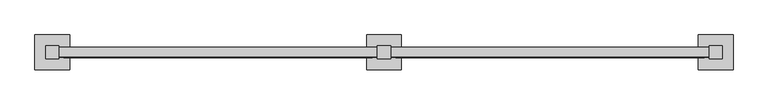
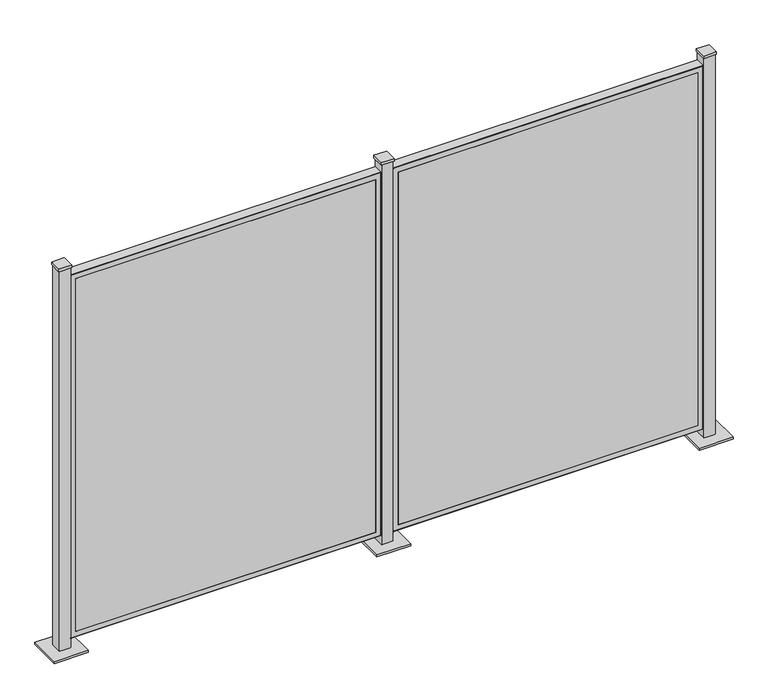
"""IFC4 building model written with IfcOpenShell, lengths in millimetres: proxy geometry, VIVA-Railings_Special-Equipment_Architectural-Fence-&-Landscape-Screens : 55” x 68” - Stainless Steel 0.078''."""

from ifc_helpers import new_model, si_unit, frame, origin, origin_with_axes, place, context, project, spatial, polyline, ellipse_curve, outline, extrude, source, transform, mapped, element, save
from ifc_brep_helpers import plane_surface, cylinder_surface, revolved_surface, advanced_brep


def specialty_equipment_cd4caa7f(model_context):
    return source(origin(), model_context, "Body", "SolidModel", [
        extrude(outline(polyline([(3048.0, 76.2), (3048.0, -76.2), (2895.6, -76.2), (2895.6, 76.2), (3048.0, 76.2)])), origin_with_axes(), (0.0, 0.0, 1.0), 9.525),
        extrude(outline(polyline([(3000.375, -28.575), (2943.225, -28.575), (2943.225, 28.575), (3000.375, 28.575), (3000.375, -28.575)])), frame((0.0, 0.0, 1816.1), z_axis=(0.0, 0.0, 1.0), x_axis=(1.0, 0.0, 0.0)), (0.0, 0.0, 1.0), 12.7),
        extrude(outline(polyline([(2946.4, 25.4), (2997.2, 25.4), (2997.2, -25.4), (2946.4, -25.4), (2946.4, 25.4)]), holes=[polyline([(2948.3812, -23.4188), (2995.2188, -23.4188), (2995.2188, 23.4188), (2948.3812, 23.4188), (2948.3812, -23.4188)])]), frame((0.0, 0.0, 9.525), z_axis=(0.0, 0.0, 1.0), x_axis=(1.0, 0.0, 0.0)), (0.0, 0.0, 1.0), 1806.575),
        advanced_brep(
        [(2946.4, 22.225, 1778.025), (2946.4, -20.2438, 1778.025), (2946.4, -20.2438, 50.825), (2946.4, 22.225, 50.825), (2944.4188, -18.6563, 1776.0438), (2944.4188, 22.225, 1776.0438), (2944.4188, 22.225, 52.8062), (2944.4188, -18.6563, 52.8062), (2942.8313, -20.2438, 1774.4563), (2942.8313, -20.2438, 54.3937), (2921.0, -22.225, 1752.625), (2921.0, -20.2438, 1752.625), (2921.0, -20.2438, 76.225), (2921.0, -22.225, 76.225), (2944.4188, -22.225, 1776.0438), (2944.4188, -22.225, 52.8062), (1549.4, -20.2438, 50.825), (1549.4, 22.225, 50.825), (1551.3812, 22.225, 52.8062), (1551.3812, -18.6563, 52.8062), (1552.9687, -20.2438, 54.3937), (1574.8, -20.2438, 76.225), (1574.8, -22.225, 76.225), (1551.3812, -22.225, 52.8062), (1549.4, -20.2438, 1778.025), (1549.4, 22.225, 1778.025), (1551.3812, 22.225, 1776.0438), (1551.3812, -18.6563, 1776.0438), (1552.9687, -20.2438, 1774.4563), (1574.8, -20.2438, 1752.625), (1574.8, -22.225, 1752.625), (1551.3812, -22.225, 1776.0438)],
        [
            (0, 1),
            (1, 2),
            (2, 3),
            (3, 0),
            (4, 5),
            (5, 6),
            (6, 7),
            (7, 4),
            (8, 4, ellipse_curve(frame((2942.8313, -18.6563, 1774.4563), z_axis=(-0.7071067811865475, 0.0, 0.7071067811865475), x_axis=(-0.7071067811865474, 0.0, -0.7071067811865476)), 2.245064, 1.5875)),
            (7, 9, ellipse_curve(frame((2942.8313, -18.6563, 54.3937), z_axis=(-0.7071067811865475, 0.0, -0.7071067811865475), x_axis=(0.7071067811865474, 0.0, -0.7071067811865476)), 2.245064, 1.5875)),
            (9, 8),
            (10, 11),
            (11, 12),
            (12, 13),
            (13, 10),
            (1, 14, ellipse_curve(frame((2944.4188, -20.2438, 1776.0438), z_axis=(0.7071067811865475, 0.0, -0.7071067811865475), x_axis=(0.7071067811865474, 0.0, 0.7071067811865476)), 2.8018399, 1.9812)),
            (14, 15),
            (15, 2, ellipse_curve(frame((2944.4188, -20.2438, 52.8062), z_axis=(0.7071067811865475, 0.0, 0.7071067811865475), x_axis=(-0.7071067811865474, 0.0, 0.7071067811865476)), 2.8018399, 1.9812)),
            (2, 16),
            (16, 17),
            (17, 3),
            (6, 18),
            (18, 19),
            (19, 7),
            (19, 20, ellipse_curve(frame((1552.9687, -18.6563, 54.3937), z_axis=(-0.7071067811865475, 0.0, 0.7071067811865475), x_axis=(-0.7071067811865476, 0.0, -0.7071067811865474)), 2.245064, 1.5875)),
            (20, 9),
            (12, 21),
            (21, 22),
            (22, 13),
            (15, 23),
            (23, 16, ellipse_curve(frame((1551.3812, -20.2438, 52.8062), z_axis=(0.7071067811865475, 0.0, -0.7071067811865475), x_axis=(0.7071067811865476, 0.0, 0.7071067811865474)), 2.8018399, 1.9812)),
            (16, 24),
            (24, 25),
            (25, 17),
            (18, 26),
            (26, 27),
            (27, 19),
            (27, 28, ellipse_curve(frame((1552.9687, -18.6563, 1774.4563), z_axis=(0.7071067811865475, 0.0, 0.7071067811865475), x_axis=(-0.7071067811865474, 0.0, 0.7071067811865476)), 2.245064, 1.5875)),
            (28, 20),
            (21, 29),
            (29, 30),
            (30, 22),
            (23, 31),
            (31, 24, ellipse_curve(frame((1551.3812, -20.2438, 1776.0438), z_axis=(-0.7071067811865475, 0.0, -0.7071067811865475), x_axis=(0.7071067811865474, 0.0, -0.7071067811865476)), 2.8018399, 1.9812)),
            (24, 1),
            (0, 25),
            (5, 26),
            (4, 27),
            (8, 28),
            (11, 29),
            (10, 30),
            (14, 31),
        ],
        [
            plane_surface(frame((2946.4, -20.2438, 1778.025), z_axis=(1.0, 0.0, 0.0), x_axis=(0.0, 0.0, -1.0))),
            plane_surface(frame((2944.4188, 22.225, 1776.0438), z_axis=(-1.0, 0.0, 0.0), x_axis=(0.0, 0.0, -1.0))),
            revolved_surface(polyline([(2944.4188, -18.6563, 52.80619999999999), (2944.4188, -18.6563, 1776.0438)]), (2942.8313, -18.6563, 1778.025), (0.0, 0.0, -1.0)),
            plane_surface(frame((2921.0, -20.2438, 1752.625), z_axis=(-1.0, 0.0, 0.0), x_axis=(0.0, 0.0, -1.0))),
            cylinder_surface(frame((2944.4188, -20.2438, 1778.025), z_axis=(0.0, 0.0, 1.0), x_axis=(1.0, 0.0, 0.0)), 1.9812),
            plane_surface(frame((2946.4, -20.2438, 50.825), z_axis=(0.0, 0.0, -1.0), x_axis=(-1.0, 0.0, 0.0))),
            plane_surface(frame((2944.4188, 22.225, 52.8062), z_axis=(0.0, 0.0, 1.0), x_axis=(-1.0, 0.0, 0.0))),
            revolved_surface(polyline([(1551.3812, -18.6563, 52.806200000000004), (2944.4188, -18.6563, 52.806200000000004)]), (2946.4, -18.6563, 54.3937), (-1.0, 0.0, 0.0)),
            plane_surface(frame((2921.0, -20.2438, 76.225), z_axis=(0.0, 0.0, 1.0), x_axis=(-1.0, 0.0, 0.0))),
            cylinder_surface(frame((2946.4, -20.2438, 52.8062), z_axis=(1.0, 0.0, 0.0), x_axis=(0.0, 0.0, -1.0)), 1.9812),
            plane_surface(frame((1549.4, -20.2438, 50.825), z_axis=(-1.0, 0.0, 0.0), x_axis=(0.0, 0.0, 1.0))),
            plane_surface(frame((1551.3812, 22.225, 52.8062), z_axis=(1.0, 0.0, 0.0), x_axis=(0.0, 0.0, 1.0))),
            revolved_surface(polyline([(1551.3811999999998, -18.6563, 1776.0438), (1551.3811999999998, -18.6563, 52.8062)]), (1552.9687, -18.6563, 50.825), (0.0, 0.0, 1.0)),
            plane_surface(frame((1574.8, -20.2438, 76.225), z_axis=(1.0, 0.0, 0.0), x_axis=(0.0, 0.0, 1.0))),
            cylinder_surface(frame((1551.3812, -20.2438, 50.825), z_axis=(0.0, 0.0, -1.0), x_axis=(-1.0, 0.0, 0.0)), 1.9812),
            plane_surface(frame((1549.4, -20.2438, 1778.025), z_axis=(0.0, 0.0, 1.0), x_axis=(1.0, 0.0, 0.0))),
            plane_surface(frame((1549.4, 22.225, 1778.025), z_axis=(0.0, 1.0, 0.0), x_axis=(1.0, 0.0, 0.0))),
            plane_surface(frame((1551.3812, 22.225, 1776.0438), z_axis=(0.0, 0.0, -1.0), x_axis=(1.0, 0.0, 0.0))),
            revolved_surface(polyline([(2944.4188, -18.6563, 1776.0438000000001), (1551.3812, -18.6563, 1776.0438000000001)]), (1549.4, -18.6563, 1774.4563), (1.0, 0.0, 0.0)),
            plane_surface(frame((1552.9687, -20.2438, 1774.4563), z_axis=(0.0, 1.0, 0.0), x_axis=(1.0, 0.0, 0.0))),
            plane_surface(frame((1574.8, -20.2438, 1752.625), z_axis=(0.0, 0.0, -1.0), x_axis=(1.0, 0.0, 0.0))),
            plane_surface(frame((1574.8, -22.225, 1752.625), z_axis=(0.0, -1.0, 0.0), x_axis=(1.0, 0.0, 0.0))),
            cylinder_surface(frame((1549.4, -20.2438, 1776.0438), z_axis=(-1.0, 0.0, 0.0), x_axis=(0.0, 0.0, 1.0)), 1.9812),
        ],
        [
            (0, [[1, 2, 3, 4]]),
            (1, [[5, 6, 7, 8]]),
            (2, [[9, -8, 10, 11]]),
            (3, [[12, 13, 14, 15]]),
            (4, [[16, 17, 18, -2]]),
            (5, [[-3, 19, 20, 21]]),
            (6, [[-7, 22, 23, 24]]),
            (7, [[-10, -24, 25, 26]]),
            (8, [[-14, 27, 28, 29]]),
            (9, [[-18, 30, 31, -19]]),
            (10, [[-20, 32, 33, 34]]),
            (11, [[-23, 35, 36, 37]]),
            (12, [[-25, -37, 38, 39]]),
            (13, [[-28, 40, 41, 42]]),
            (14, [[-31, 43, 44, -32]]),
            (15, [[-33, 45, -1, 46]]),
            (16, [[-21, -34, -46, -4], [47, -35, -22, -6]]),
            (17, [[-36, -47, -5, 48]]),
            (18, [[-38, -48, -9, 49]]),
            (19, [[-26, -39, -49, -11], [50, -40, -27, -13]]),
            (20, [[-41, -50, -12, 51]]),
            (21, [[52, -43, -30, -17], [-29, -42, -51, -15]]),
            (22, [[-44, -52, -16, -45]]),
        ],
    ),
        advanced_brep(
        [(1498.6, 22.225, 1778.025), (1498.6, -20.2438, 1778.025), (1498.6, -20.2438, 50.825), (1498.6, 22.225, 50.825), (1496.6188, -18.6563, 1776.0438), (1496.6188, 22.225, 1776.0438), (1496.6188, 22.225, 52.8062), (1496.6188, -18.6563, 52.8062), (1495.0313, -20.2438, 1774.4563), (1495.0313, -20.2438, 54.3937), (1473.2, -22.225, 1752.625), (1473.2, -20.2438, 1752.625), (1473.2, -20.2438, 76.225), (1473.2, -22.225, 76.225), (1496.6188, -22.225, 1776.0438), (1496.6188, -22.225, 52.8062), (101.6, -20.2438, 50.825), (101.6, 22.225, 50.825), (103.5812, 22.225, 52.8062), (103.5812, -18.6563, 52.8062), (105.1687, -20.2438, 54.3937), (127.0, -20.2438, 76.225), (127.0, -22.225, 76.225), (103.5812, -22.225, 52.8062), (101.6, -20.2438, 1778.025), (101.6, 22.225, 1778.025), (103.5812, 22.225, 1776.0438), (103.5812, -18.6563, 1776.0438), (105.1687, -20.2438, 1774.4563), (127.0, -20.2438, 1752.625), (127.0, -22.225, 1752.625), (103.5812, -22.225, 1776.0438)],
        [
            (0, 1),
            (1, 2),
            (2, 3),
            (3, 0),
            (4, 5),
            (5, 6),
            (6, 7),
            (7, 4),
            (8, 4, ellipse_curve(frame((1495.0313, -18.6563, 1774.4563), z_axis=(-0.7071067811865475, 0.0, 0.7071067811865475), x_axis=(-0.7071067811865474, 0.0, -0.7071067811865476)), 2.245064, 1.5875)),
            (7, 9, ellipse_curve(frame((1495.0313, -18.6563, 54.3937), z_axis=(-0.7071067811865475, 0.0, -0.7071067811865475), x_axis=(0.7071067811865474, 0.0, -0.7071067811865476)), 2.245064, 1.5875)),
            (9, 8),
            (10, 11),
            (11, 12),
            (12, 13),
            (13, 10),
            (1, 14, ellipse_curve(frame((1496.6188, -20.2438, 1776.0438), z_axis=(0.7071067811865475, 0.0, -0.7071067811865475), x_axis=(0.7071067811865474, 0.0, 0.7071067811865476)), 2.8018399, 1.9812)),
            (14, 15),
            (15, 2, ellipse_curve(frame((1496.6188, -20.2438, 52.8062), z_axis=(0.7071067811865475, 0.0, 0.7071067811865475), x_axis=(-0.7071067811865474, 0.0, 0.7071067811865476)), 2.8018399, 1.9812)),
            (2, 16),
            (16, 17),
            (17, 3),
            (6, 18),
            (18, 19),
            (19, 7),
            (19, 20, ellipse_curve(frame((105.1687, -18.6563, 54.3937), z_axis=(-0.7071067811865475, 0.0, 0.7071067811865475), x_axis=(-0.7071067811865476, 0.0, -0.7071067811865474)), 2.245064, 1.5875)),
            (20, 9),
            (12, 21),
            (21, 22),
            (22, 13),
            (15, 23),
            (23, 16, ellipse_curve(frame((103.5812, -20.2438, 52.8062), z_axis=(0.7071067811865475, 0.0, -0.7071067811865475), x_axis=(0.7071067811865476, 0.0, 0.7071067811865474)), 2.8018399, 1.9812)),
            (16, 24),
            (24, 25),
            (25, 17),
            (18, 26),
            (26, 27),
            (27, 19),
            (27, 28, ellipse_curve(frame((105.1687, -18.6563, 1774.4563), z_axis=(0.7071067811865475, 0.0, 0.7071067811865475), x_axis=(-0.7071067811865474, 0.0, 0.7071067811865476)), 2.245064, 1.5875)),
            (28, 20),
            (21, 29),
            (29, 30),
            (30, 22),
            (23, 31),
            (31, 24, ellipse_curve(frame((103.5812, -20.2438, 1776.0438), z_axis=(-0.7071067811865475, 0.0, -0.7071067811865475), x_axis=(0.7071067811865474, 0.0, -0.7071067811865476)), 2.8018399, 1.9812)),
            (24, 1),
            (0, 25),
            (5, 26),
            (4, 27),
            (8, 28),
            (11, 29),
            (10, 30),
            (14, 31),
        ],
        [
            plane_surface(frame((1498.6, -20.2438, 1778.025), z_axis=(1.0, 0.0, 0.0), x_axis=(0.0, 0.0, -1.0))),
            plane_surface(frame((1496.6188, 22.225, 1776.0438), z_axis=(-1.0, 0.0, 0.0), x_axis=(0.0, 0.0, -1.0))),
            revolved_surface(polyline([(1496.6188000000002, -18.6563, 52.80619999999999), (1496.6188000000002, -18.6563, 1776.0438)]), (1495.0313, -18.6563, 1778.025), (0.0, 0.0, -1.0)),
            plane_surface(frame((1473.2, -20.2438, 1752.625), z_axis=(-1.0, 0.0, 0.0), x_axis=(0.0, 0.0, -1.0))),
            cylinder_surface(frame((1496.6188, -20.2438, 1778.025), z_axis=(0.0, 0.0, 1.0), x_axis=(1.0, 0.0, 0.0)), 1.9812),
            plane_surface(frame((1498.6, -20.2438, 50.825), z_axis=(0.0, 0.0, -1.0), x_axis=(-1.0, 0.0, 0.0))),
            plane_surface(frame((1496.6188, 22.225, 52.8062), z_axis=(0.0, 0.0, 1.0), x_axis=(-1.0, 0.0, 0.0))),
            revolved_surface(polyline([(103.58120000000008, -18.6563, 52.806200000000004), (1496.6188, -18.6563, 52.806200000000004)]), (1498.6, -18.6563, 54.3937), (-1.0, 0.0, 0.0)),
            plane_surface(frame((1473.2, -20.2438, 76.225), z_axis=(0.0, 0.0, 1.0), x_axis=(-1.0, 0.0, 0.0))),
            cylinder_surface(frame((1498.6, -20.2438, 52.8062), z_axis=(1.0, 0.0, 0.0), x_axis=(0.0, 0.0, -1.0)), 1.9812),
            plane_surface(frame((101.6, -20.2438, 50.825), z_axis=(-1.0, 0.0, 0.0), x_axis=(0.0, 0.0, 1.0))),
            plane_surface(frame((103.5812, 22.225, 52.8062), z_axis=(1.0, 0.0, 0.0), x_axis=(0.0, 0.0, 1.0))),
            revolved_surface(polyline([(103.5812, -18.6563, 1776.0438), (103.5812, -18.6563, 52.8062)]), (105.1687, -18.6563, 50.825), (0.0, 0.0, 1.0)),
            plane_surface(frame((127.0, -20.2438, 76.225), z_axis=(1.0, 0.0, 0.0), x_axis=(0.0, 0.0, 1.0))),
            cylinder_surface(frame((103.5812, -20.2438, 50.825), z_axis=(0.0, 0.0, -1.0), x_axis=(-1.0, 0.0, 0.0)), 1.9812),
            plane_surface(frame((101.6, -20.2438, 1778.025), z_axis=(0.0, 0.0, 1.0), x_axis=(1.0, 0.0, 0.0))),
            plane_surface(frame((101.6, 22.225, 1778.025), z_axis=(0.0, 1.0, 0.0), x_axis=(1.0, 0.0, 0.0))),
            plane_surface(frame((103.5812, 22.225, 1776.0438), z_axis=(0.0, 0.0, -1.0), x_axis=(1.0, 0.0, 0.0))),
            revolved_surface(polyline([(1496.6188, -18.6563, 1776.0438000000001), (103.5812, -18.6563, 1776.0438000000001)]), (101.6, -18.6563, 1774.4563), (1.0, 0.0, 0.0)),
            plane_surface(frame((105.1687, -20.2438, 1774.4563), z_axis=(0.0, 1.0, 0.0), x_axis=(1.0, 0.0, 0.0))),
            plane_surface(frame((127.0, -20.2438, 1752.625), z_axis=(0.0, 0.0, -1.0), x_axis=(1.0, 0.0, 0.0))),
            plane_surface(frame((127.0, -22.225, 1752.625), z_axis=(0.0, -1.0, 0.0), x_axis=(1.0, 0.0, 0.0))),
            cylinder_surface(frame((101.6, -20.2438, 1776.0438), z_axis=(-1.0, 0.0, 0.0), x_axis=(0.0, 0.0, 1.0)), 1.9812),
        ],
        [
            (0, [[1, 2, 3, 4]]),
            (1, [[5, 6, 7, 8]]),
            (2, [[9, -8, 10, 11]]),
            (3, [[12, 13, 14, 15]]),
            (4, [[16, 17, 18, -2]]),
            (5, [[-3, 19, 20, 21]]),
            (6, [[-7, 22, 23, 24]]),
            (7, [[-10, -24, 25, 26]]),
            (8, [[-14, 27, 28, 29]]),
            (9, [[-18, 30, 31, -19]]),
            (10, [[-20, 32, 33, 34]]),
            (11, [[-23, 35, 36, 37]]),
            (12, [[-25, -37, 38, 39]]),
            (13, [[-28, 40, 41, 42]]),
            (14, [[-31, 43, 44, -32]]),
            (15, [[-33, 45, -1, 46]]),
            (16, [[-21, -34, -46, -4], [47, -35, -22, -6]]),
            (17, [[-36, -47, -5, 48]]),
            (18, [[-38, -48, -9, 49]]),
            (19, [[-26, -39, -49, -11], [50, -40, -27, -13]]),
            (20, [[-41, -50, -12, 51]]),
            (21, [[52, -43, -30, -17], [-29, -42, -51, -15]]),
            (22, [[-44, -52, -16, -45]]),
        ],
    ),
        extrude(outline(polyline([(2921.0, -22.225), (1574.8, -22.225), (1574.8, -20.2438), (2921.0, -20.2438), (2921.0, -22.225)])), frame((0.0, 0.0, 76.225), z_axis=(0.0, 0.0, 1.0), x_axis=(1.0, 0.0, 0.0)), (0.0, 0.0, 1.0), 1676.4),
        extrude(outline(polyline([(1473.2, -22.225), (127.0, -22.225), (127.0, -20.2438), (1473.2, -20.2438), (1473.2, -22.225)])), frame((0.0, 0.0, 76.225), z_axis=(0.0, 0.0, 1.0), x_axis=(1.0, 0.0, 0.0)), (0.0, 0.0, 1.0), 1676.4),
        extrude(outline(polyline([(1600.2, 76.2), (1600.2, -76.2), (1447.8, -76.2), (1447.8, 76.2), (1600.2, 76.2)])), origin_with_axes(), (0.0, 0.0, 1.0), 9.525),
        extrude(outline(polyline([(152.4, 76.2), (152.4, -76.2), (0.0, -76.2), (0.0, 76.2), (152.4, 76.2)])), origin_with_axes(), (0.0, 0.0, 1.0), 9.525),
        extrude(outline(polyline([(1552.575, -28.575), (1495.425, -28.575), (1495.425, 28.575), (1552.575, 28.575), (1552.575, -28.575)])), frame((0.0, 0.0, 1816.1), z_axis=(0.0, 0.0, 1.0), x_axis=(1.0, 0.0, 0.0)), (0.0, 0.0, 1.0), 12.7),
        extrude(outline(polyline([(1498.6, 25.4), (1549.4, 25.4), (1549.4, -25.4), (1498.6, -25.4), (1498.6, 25.4)]), holes=[polyline([(1500.5812, -23.4188), (1547.4188, -23.4188), (1547.4188, 23.4188), (1500.5812, 23.4188), (1500.5812, -23.4188)])]), frame((0.0, 0.0, 9.525), z_axis=(0.0, 0.0, 1.0), x_axis=(1.0, 0.0, 0.0)), (0.0, 0.0, 1.0), 1806.575),
        extrude(outline(polyline([(104.775, -28.575), (47.625, -28.575), (47.625, 28.575), (104.775, 28.575), (104.775, -28.575)])), frame((0.0, 0.0, 1816.1), z_axis=(0.0, 0.0, 1.0), x_axis=(1.0, 0.0, 0.0)), (0.0, 0.0, 1.0), 12.7),
        extrude(outline(polyline([(50.8, 25.4), (101.6, 25.4), (101.6, -25.4), (50.8, -25.4), (50.8, 25.4)]), holes=[polyline([(52.7812, -23.4188), (99.6188, -23.4188), (99.6188, 23.4188), (52.7812, 23.4188), (52.7812, -23.4188)])]), frame((0.0, 0.0, 9.525), z_axis=(0.0, 0.0, 1.0), x_axis=(1.0, 0.0, 0.0)), (0.0, 0.0, 1.0), 1806.575),
    ])


if __name__ == "__main__":
    model = new_model("IFC4")
    model_context = context("Model", 3, world=origin())
    ifc_project = project(units=[si_unit("LENGTHUNIT", "METRE", prefix="MILLI")], contexts=[model_context])
    site = spatial("IfcSite", under=ifc_project)
    building = spatial("IfcBuilding", under=site)
    placement = place(None, origin())
    specialty_equipment_shape = specialty_equipment_cd4caa7f(model_context)
    element("IfcBuildingElementProxy", 1, Name="VIVA-Railings_Special-Equipment_Architectural-Fence-&-Landscape-Screens : 55” x 68” - Stainless Steel 0.078''", ObjectType="VIVA-Railings_Special-Equipment_Architectural-Fence-&-Landscape-Screens : 55” x 68” - Stainless Steel 0.078''", at=placement, inside=building, context=model_context, shape_type="MappedRepresentation", body=[
        mapped(specialty_equipment_shape, transform((0.0, 0.0, 0.0), x_axis=(1.0, 0.0, 0.0), y_axis=(0.0, 1.0, 0.0), z_axis=(0.0, 0.0, 1.0))),
    ])
    save(model, "model.ifc")
